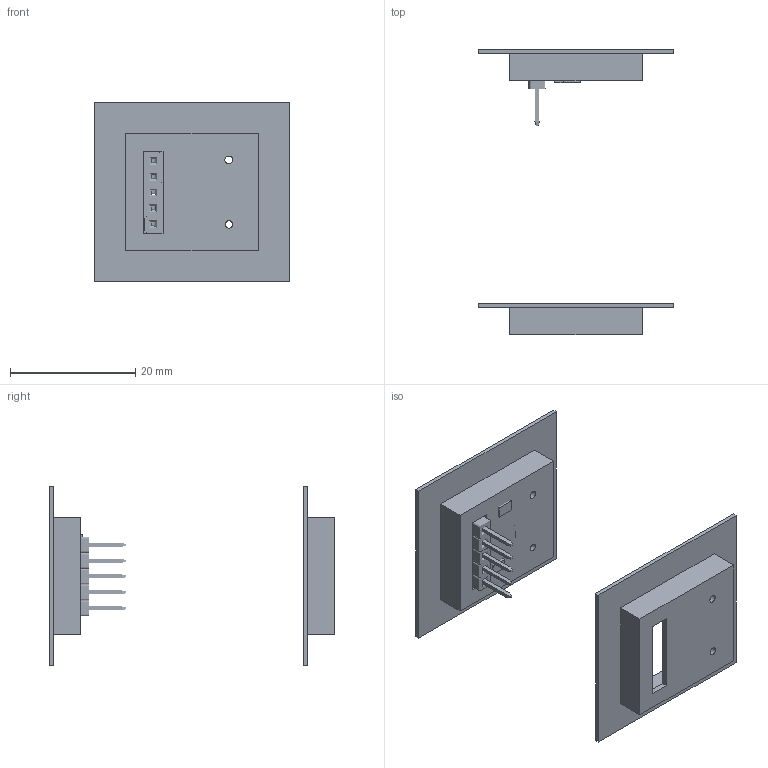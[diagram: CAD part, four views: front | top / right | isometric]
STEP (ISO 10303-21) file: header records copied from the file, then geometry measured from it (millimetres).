
FILE_DESCRIPTION(/* description */ ('STEP AP242 Edition 2','CAx-IF Rec.Pracs.---Representation and Presentation of Product Manufacturing Information (PMI)---4.0---2014-10-13','CAx-IF Rec.Pracs.---3D Tessellated Geometry---0.4---2014-09-14','2;1','CAx-IF Rec.Pracs.---User Defined Attributes---1.5---2016-08-15'),/* implementation_level */ '2;1');
FILE_NAME(/* name */ 'UVA UVB + mount',/* time_stamp */ '2026-02-01T16:54:57Z',/* author */ (''),/* organization */ (''),/* preprocessor_version */ 'ST-DEVELOPER v20',/* originating_system */ 'ONSHAPE BY PTC INC, 1.210',/* authorisation */ ' ');
FILE_SCHEMA (('AP242_MANAGED_MODEL_BASED_3D_ENGINEERING_MIM_LF { 1 0 10303 442 3 1 4 }'));
Length unit declared in the file: centimetre
Products named in the file (10): id2; id5; id8; id11; id14; id17; id20; Part 1; Part 3; Part 2
Bounding box: 31.13 x 45.59 x 28.72 mm (x, y, z)
Volume: 2825.9 mm3; surface area: 6208.2 mm2
Topology: 3 solids, 10 shells, 119 faces, 286 edges, 195 vertices
Faces by surface type: plane 85, cylinder 27, other 7
Full cylindrical faces by diameter (mm): 1.199 x2, 1.23 x2, 1.621 x5, 2.687 x2, 2.744 x2, 3.023 x1, 3.029 x1
Entity records: 3481 total; most frequent: CARTESIAN_POINT 562, DIRECTION 556, ORIENTED_EDGE 516, EDGE_CURVE 258, LINE 204, VECTOR 204, VERTEX_POINT 182, AXIS2_PLACEMENT_3D 176
